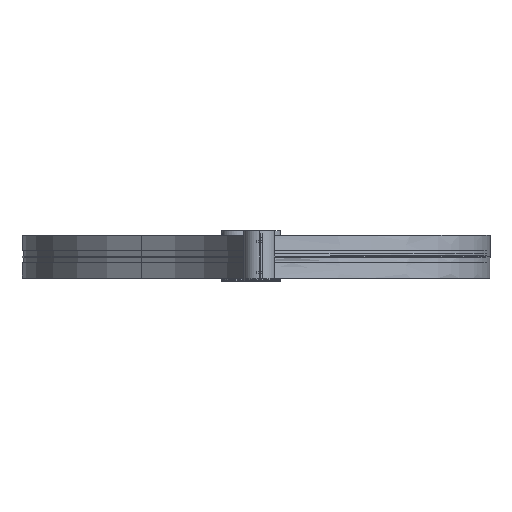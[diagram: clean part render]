
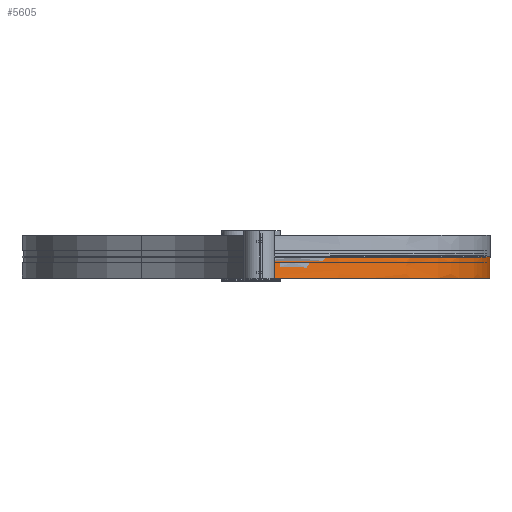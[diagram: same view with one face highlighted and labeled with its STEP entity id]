
A CAD part, left-side view. The second image highlights one B-rep face of the part: STEP entity #5605.
In plain terms, the highlighted face is a extrusion surface.
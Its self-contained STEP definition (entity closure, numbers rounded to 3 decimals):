
#4974=CARTESIAN_POINT('',(872.487,13.786,4.));
#4975=CARTESIAN_POINT('',(883.531,-49.03,4.));
#4976=CARTESIAN_POINT('',(907.901,-126.363,4.));
#4977=CARTESIAN_POINT('',(952.04,-201.046,4.));
#4978=CARTESIAN_POINT('',(1003.947,-257.992,4.));
#4979=CARTESIAN_POINT('',(1062.88,-288.087,4.));
#4980=CARTESIAN_POINT('',(1122.572,-298.478,4.));
#4981=CARTESIAN_POINT('',(1166.422,-297.7,4.));
#4982=CARTESIAN_POINT('',(1207.257,-290.502,4.));
#4983=CARTESIAN_POINT('',(1244.662,-277.818,4.));
#4984=CARTESIAN_POINT('',(1281.211,-259.561,4.));
#4985=CARTESIAN_POINT('',(1315.707,-237.399,4.));
#4986=CARTESIAN_POINT('',(1350.111,-211.93,4.));
#4987=CARTESIAN_POINT('',(1384.495,-184.948,4.));
#4988=CARTESIAN_POINT('',(1421.935,-156.241,4.));
#4989=CARTESIAN_POINT('',(1458.245,-131.221,4.));
#4990=CARTESIAN_POINT('',(1494.532,-110.167,4.));
#4991=CARTESIAN_POINT('',(1540.892,-86.619,4.));
#4992=CARTESIAN_POINT('',(1604.582,-60.164,4.));
#4993=CARTESIAN_POINT('',(1686.796,-33.258,4.));
#4994=CARTESIAN_POINT('',(1741.993,-18.874,4.));
#4995=CARTESIAN_POINT('',(1769.872,-12.298,4.));
#5005=DIRECTION('',(0.,0.,1.));
#5006=VECTOR('',#5005,27.5);
#5007=CARTESIAN_POINT('',(872.487,13.786,4.));
#5008=LINE('',#5007,#5006);
#5009=CARTESIAN_POINT('',(872.487,13.786,31.5));
#5010=CARTESIAN_POINT('',(883.531,-49.03,31.5));
#5011=CARTESIAN_POINT('',(907.901,-126.363,31.5));
#5012=CARTESIAN_POINT('',(952.04,-201.046,31.5));
#5013=CARTESIAN_POINT('',(1003.947,-257.992,31.5));
#5014=CARTESIAN_POINT('',(1062.88,-288.087,31.5));
#5015=CARTESIAN_POINT('',(1122.572,-298.478,31.5));
#5016=CARTESIAN_POINT('',(1166.422,-297.7,31.5));
#5017=CARTESIAN_POINT('',(1207.257,-290.502,31.5));
#5018=CARTESIAN_POINT('',(1244.662,-277.818,31.5));
#5019=CARTESIAN_POINT('',(1281.211,-259.561,31.5));
#5020=CARTESIAN_POINT('',(1315.707,-237.399,31.5));
#5021=CARTESIAN_POINT('',(1350.111,-211.93,31.5));
#5022=CARTESIAN_POINT('',(1384.495,-184.948,31.5));
#5023=CARTESIAN_POINT('',(1421.935,-156.241,31.5));
#5024=CARTESIAN_POINT('',(1458.245,-131.221,31.5));
#5025=CARTESIAN_POINT('',(1494.532,-110.167,31.5));
#5026=CARTESIAN_POINT('',(1540.892,-86.619,31.5));
#5027=CARTESIAN_POINT('',(1604.582,-60.164,31.5));
#5028=CARTESIAN_POINT('',(1686.796,-33.258,31.5));
#5029=CARTESIAN_POINT('',(1741.993,-18.874,31.5));
#5030=CARTESIAN_POINT('',(1769.872,-12.298,31.5));
#5382=DIRECTION('',(0.,0.,-1.));
#5383=VECTOR('',#5382,27.5);
#5384=CARTESIAN_POINT('',(1769.872,-12.298,31.5));
#5385=LINE('',#5384,#5383);
#5473=CARTESIAN_POINT('',(872.487,13.786,31.5));
#5475=VERTEX_POINT('',#5473);
#5480=CARTESIAN_POINT('',(872.487,13.786,4.));
#5481=VERTEX_POINT('',#5480);
#5497=VERTEX_POINT('',#4995);
#5499=CARTESIAN_POINT('',(1769.872,-12.298,31.5));
#5500=VERTEX_POINT('',#5499);
#5568=CARTESIAN_POINT('',(870.568,25.133,31.5));
#5569=CARTESIAN_POINT('',(871.189,21.308,31.5));
#5570=CARTESIAN_POINT('',(882.577,-46.001,31.5));
#5571=CARTESIAN_POINT('',(907.901,-126.363,31.5));
#5572=CARTESIAN_POINT('',(952.04,-201.046,31.5));
#5573=CARTESIAN_POINT('',(1003.947,-257.992,31.5));
#5574=CARTESIAN_POINT('',(1062.88,-288.087,31.5));
#5575=CARTESIAN_POINT('',(1122.572,-298.478,31.5));
#5576=CARTESIAN_POINT('',(1166.422,-297.7,31.5));
#5577=CARTESIAN_POINT('',(1207.257,-290.502,31.5));
#5578=CARTESIAN_POINT('',(1244.662,-277.818,31.5));
#5579=CARTESIAN_POINT('',(1281.211,-259.561,31.5));
#5580=CARTESIAN_POINT('',(1315.707,-237.399,31.5));
#5581=CARTESIAN_POINT('',(1350.111,-211.93,31.5));
#5582=CARTESIAN_POINT('',(1384.495,-184.948,31.5));
#5583=CARTESIAN_POINT('',(1421.935,-156.241,31.5));
#5584=CARTESIAN_POINT('',(1458.245,-131.221,31.5));
#5585=CARTESIAN_POINT('',(1494.532,-110.167,31.5));
#5586=CARTESIAN_POINT('',(1540.892,-86.619,31.5));
#5587=CARTESIAN_POINT('',(1604.582,-60.164,31.5));
#5588=CARTESIAN_POINT('',(1686.796,-33.258,31.5));
#5589=CARTESIAN_POINT('',(1745.818,-17.877,31.5));
#5590=CARTESIAN_POINT('',(1777.289,-10.561,31.5));
#5591=CARTESIAN_POINT('',(1780.974,-9.717,31.5));
#5593=DIRECTION('',(0.,0.,-1.));
#5594=VECTOR('',#5593,1.);
#5595=SURFACE_OF_LINEAR_EXTRUSION('',#5592,#5594);
#5597=ORIENTED_EDGE('',*,*,#5596,.T.);
#5599=ORIENTED_EDGE('',*,*,#5598,.T.);
#5601=ORIENTED_EDGE('',*,*,#5600,.T.);
#5602=ORIENTED_EDGE('',*,*,#5553,.F.);
#5603=EDGE_LOOP('',(#5597,#5599,#5601,#5602));
#5604=FACE_OUTER_BOUND('',#5603,.F.);
#5605=ADVANCED_FACE('',(#5604),#5595,.F.);
#4996=B_SPLINE_CURVE_WITH_KNOTS('',3,(#4974,#4975,#4976,#4977,#4978,#4979,#4980,
#4981,#4982,#4983,#4984,#4985,#4986,#4987,#4988,#4989,#4990,#4991,#4992,#4993,
#4994,#4995),.UNSPECIFIED.,.F.,.F.,(4,1,1,1,1,1,1,1,1,1,1,1,1,1,1,1,1,1,1,4),(
0.,0.073,0.11,0.151,0.23,
0.27,0.315,0.356,0.4,
0.445,0.493,0.537,0.585,
0.633,0.685,0.72,0.758,
0.836,0.915,1.),.UNSPECIFIED.);
#5031=B_SPLINE_CURVE_WITH_KNOTS('',3,(#5009,#5010,#5011,#5012,#5013,#5014,#5015,
#5016,#5017,#5018,#5019,#5020,#5021,#5022,#5023,#5024,#5025,#5026,#5027,#5028,
#5029,#5030),.UNSPECIFIED.,.F.,.F.,(4,1,1,1,1,1,1,1,1,1,1,1,1,1,1,1,1,1,1,4),(
0.,0.073,0.11,0.151,0.23,
0.27,0.315,0.356,0.4,
0.445,0.493,0.537,0.585,
0.633,0.685,0.72,0.758,
0.836,0.915,1.),.UNSPECIFIED.);
#5553=EDGE_CURVE('',#5481,#5497,#4996,.T.);
#5592=B_SPLINE_CURVE_WITH_KNOTS('',3,(#5568,#5569,#5570,#5571,#5572,#5573,#5574,
#5575,#5576,#5577,#5578,#5579,#5580,#5581,#5582,#5583,#5584,#5585,#5586,#5587,
#5588,#5589,#5590,#5591),.UNSPECIFIED.,.F.,.F.,(4,1,1,1,1,1,1,1,1,1,1,1,1,1,1,1,
1,1,1,1,1,4),(0.,0.004,0.076,0.113,
0.153,0.23,0.271,0.314,
0.354,0.398,0.442,0.489,
0.533,0.58,0.628,0.679,
0.713,0.75,0.828,0.905,
0.989,1.),.UNSPECIFIED.);
#5596=EDGE_CURVE('',#5481,#5475,#5008,.T.);
#5598=EDGE_CURVE('',#5475,#5500,#5031,.T.);
#5600=EDGE_CURVE('',#5500,#5497,#5385,.T.);
